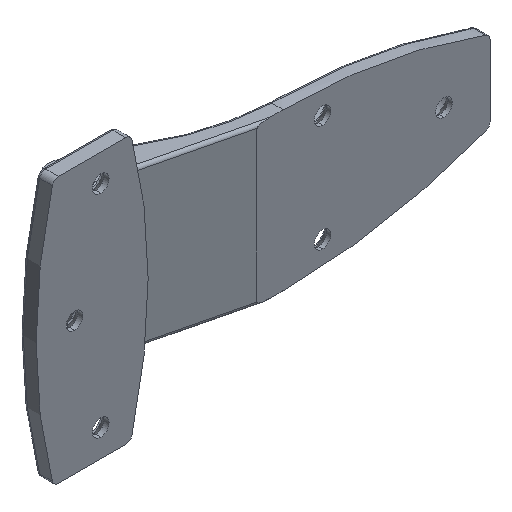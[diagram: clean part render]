
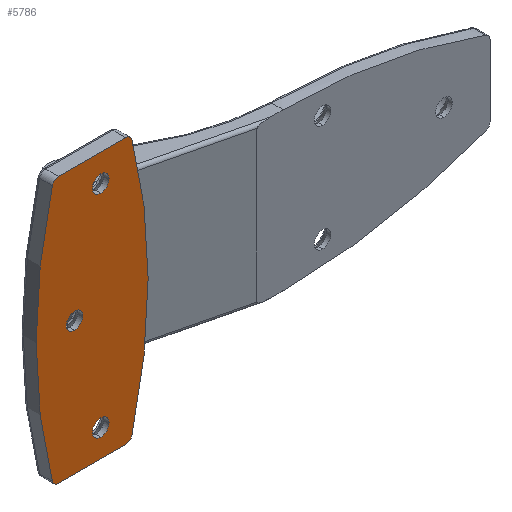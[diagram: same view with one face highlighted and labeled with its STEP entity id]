
A CAD part, isometric view. The second image highlights one B-rep face of the part: STEP entity #5786.
In plain terms, the highlighted planar face has unit normal (0, -1, 0).
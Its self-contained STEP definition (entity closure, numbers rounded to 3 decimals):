
#30 = EDGE_CURVE ( 'NONE', #4342, #4084, #4526, .T. ) ;
#81 = VERTEX_POINT ( 'NONE', #4961 ) ;
#182 = AXIS2_PLACEMENT_3D ( 'NONE', #4245, #3330, #1212 ) ;
#213 = CARTESIAN_POINT ( 'NONE',  ( -17.983, 0., 39.5 ) ) ;
#250 = CARTESIAN_POINT ( 'NONE',  ( 4.919, 0., 40. ) ) ;
#308 = CARTESIAN_POINT ( 'NONE',  ( -4.8, 0., 35.6 ) ) ;
#352 = CARTESIAN_POINT ( 'NONE',  ( -4.8, 0., -35.6 ) ) ;
#406 = CIRCLE ( 'NONE', #6312, 2.6 ) ;
#420 = CARTESIAN_POINT ( 'NONE',  ( -17.983, 0., -39.5 ) ) ;
#460 = DIRECTION ( 'NONE',  ( 0., 1., 0. ) ) ;
#500 = EDGE_LOOP ( 'NONE', ( #6244, #2288 ) ) ;
#516 = DIRECTION ( 'NONE',  ( 0., 0., 1. ) ) ;
#523 = CARTESIAN_POINT ( 'NONE',  ( -4.8, 0., -33. ) ) ;
#621 = EDGE_CURVE ( 'NONE', #5674, #681, #3442, .T. ) ;
#660 = EDGE_CURVE ( 'NONE', #6634, #3691, #5629, .T. ) ;
#681 = VERTEX_POINT ( 'NONE', #250 ) ;
#697 = CARTESIAN_POINT ( 'NONE',  ( 2.983, 0., -41.5 ) ) ;
#844 = DIRECTION ( 'NONE',  ( 0., 1., 0. ) ) ;
#947 = VECTOR ( 'NONE', #6474, 1000. ) ;
#953 = DIRECTION ( 'NONE',  ( 0., 0., 1. ) ) ;
#1007 = EDGE_CURVE ( 'NONE', #3691, #6634, #1592, .T. ) ;
#1014 = CARTESIAN_POINT ( 'NONE',  ( -4.8, 0., 33. ) ) ;
#1018 = VERTEX_POINT ( 'NONE', #2099 ) ;
#1036 = DIRECTION ( 'NONE',  ( 0., 1., 0. ) ) ;
#1107 = CARTESIAN_POINT ( 'NONE',  ( -17.983, 0., 41.5 ) ) ;
#1139 = DIRECTION ( 'NONE',  ( 0., 0., 1. ) ) ;
#1212 = DIRECTION ( 'NONE',  ( 0., 0., 1. ) ) ;
#1377 = AXIS2_PLACEMENT_3D ( 'NONE', #2642, #5212, #6774 ) ;
#1389 = AXIS2_PLACEMENT_3D ( 'NONE', #4692, #4383, #4350 ) ;
#1592 = CIRCLE ( 'NONE', #1709, 2.6 ) ;
#1614 = CARTESIAN_POINT ( 'NONE',  ( 4.919, 0., -40. ) ) ;
#1659 = DIRECTION ( 'NONE',  ( 0., 1., 0. ) ) ;
#1708 = AXIS2_PLACEMENT_3D ( 'NONE', #5257, #3213, #2160 ) ;
#1709 = AXIS2_PLACEMENT_3D ( 'NONE', #3627, #1036, #516 ) ;
#1728 = VERTEX_POINT ( 'NONE', #6340 ) ;
#1801 = CARTESIAN_POINT ( 'NONE',  ( 2.983, 0., 41.5 ) ) ;
#1932 = CIRCLE ( 'NONE', #1708, 160. ) ;
#1953 = VERTEX_POINT ( 'NONE', #697 ) ;
#2099 = CARTESIAN_POINT ( 'NONE',  ( -19.919, 0., -40. ) ) ;
#2160 = DIRECTION ( 'NONE',  ( 0., 0., 1. ) ) ;
#2161 = VERTEX_POINT ( 'NONE', #3290 ) ;
#2192 = DIRECTION ( 'NONE',  ( 0., 1., 0. ) ) ;
#2254 = ORIENTED_EDGE ( 'NONE', *, *, #5723, .F. ) ;
#2264 = DIRECTION ( 'NONE',  ( 0., 1., 0. ) ) ;
#2288 = ORIENTED_EDGE ( 'NONE', *, *, #6346, .T. ) ;
#2298 = CARTESIAN_POINT ( 'NONE',  ( -17.983, 0., -41.5 ) ) ;
#2352 = EDGE_CURVE ( 'NONE', #1018, #6212, #1932, .T. ) ;
#2407 = EDGE_LOOP ( 'NONE', ( #3268, #3030 ) ) ;
#2471 = CARTESIAN_POINT ( 'NONE',  ( -17.983, 0., -39.5 ) ) ;
#2642 = CARTESIAN_POINT ( 'NONE',  ( 2.983, 0., 39.5 ) ) ;
#2689 = LINE ( 'NONE', #1107, #6616 ) ;
#2734 = CARTESIAN_POINT ( 'NONE',  ( -13., 0., 0. ) ) ;
#2747 = EDGE_CURVE ( 'NONE', #2161, #1018, #5537, .T. ) ;
#2818 = CIRCLE ( 'NONE', #3890, 2. ) ;
#2834 = ORIENTED_EDGE ( 'NONE', *, *, #2352, .F. ) ;
#2850 = EDGE_LOOP ( 'NONE', ( #6246, #3212, #3560, #4844, #3903, #2863, #2254, #2834 ) ) ;
#2863 = ORIENTED_EDGE ( 'NONE', *, *, #5200, .F. ) ;
#2922 = AXIS2_PLACEMENT_3D ( 'NONE', #420, #6696, #2993 ) ;
#2991 = ORIENTED_EDGE ( 'NONE', *, *, #30, .T. ) ;
#2993 = DIRECTION ( 'NONE',  ( 0., 0., -1. ) ) ;
#3030 = ORIENTED_EDGE ( 'NONE', *, *, #1007, .T. ) ;
#3031 = FACE_BOUND ( 'NONE', #500, .T. ) ;
#3060 = FACE_OUTER_BOUND ( 'NONE', #2850, .T. ) ;
#3132 = DIRECTION ( 'NONE',  ( 0., 0., 1. ) ) ;
#3156 = DIRECTION ( 'NONE',  ( 0., 1., 0. ) ) ;
#3212 = ORIENTED_EDGE ( 'NONE', *, *, #5806, .F. ) ;
#3213 = DIRECTION ( 'NONE',  ( 0., 1., 0. ) ) ;
#3268 = ORIENTED_EDGE ( 'NONE', *, *, #660, .T. ) ;
#3290 = CARTESIAN_POINT ( 'NONE',  ( -17.983, 0., -41.5 ) ) ;
#3296 = EDGE_CURVE ( 'NONE', #5790, #1953, #6301, .T. ) ;
#3330 = DIRECTION ( 'NONE',  ( 0., 1., 0. ) ) ;
#3442 = CIRCLE ( 'NONE', #1377, 2. ) ;
#3560 = ORIENTED_EDGE ( 'NONE', *, *, #3296, .F. ) ;
#3562 = AXIS2_PLACEMENT_3D ( 'NONE', #2471, #4552, #6231 ) ;
#3627 = CARTESIAN_POINT ( 'NONE',  ( -4.8, 0., -33. ) ) ;
#3691 = VERTEX_POINT ( 'NONE', #3857 ) ;
#3705 = CARTESIAN_POINT ( 'NONE',  ( -4.8, 0., 33. ) ) ;
#3709 = FACE_BOUND ( 'NONE', #5606, .T. ) ;
#3786 = CARTESIAN_POINT ( 'NONE',  ( -13., 0., 2.6 ) ) ;
#3787 = CIRCLE ( 'NONE', #182, 160. ) ;
#3857 = CARTESIAN_POINT ( 'NONE',  ( -4.8, 0., -30.4 ) ) ;
#3890 = AXIS2_PLACEMENT_3D ( 'NONE', #213, #844, #3981 ) ;
#3903 = ORIENTED_EDGE ( 'NONE', *, *, #621, .F. ) ;
#3981 = DIRECTION ( 'NONE',  ( 0., 0., 1. ) ) ;
#3995 = CARTESIAN_POINT ( 'NONE',  ( -19.919, 0., 40. ) ) ;
#4084 = VERTEX_POINT ( 'NONE', #3786 ) ;
#4181 = CIRCLE ( 'NONE', #4298, 2.6 ) ;
#4213 = ORIENTED_EDGE ( 'NONE', *, *, #5438, .T. ) ;
#4245 = CARTESIAN_POINT ( 'NONE',  ( -150., 0., 0. ) ) ;
#4255 = DIRECTION ( 'NONE',  ( 1., 0., 0. ) ) ;
#4295 = DIRECTION ( 'NONE',  ( 0., 0., 1. ) ) ;
#4298 = AXIS2_PLACEMENT_3D ( 'NONE', #3705, #2264, #4295 ) ;
#4342 = VERTEX_POINT ( 'NONE', #6251 ) ;
#4350 = DIRECTION ( 'NONE',  ( 0., 0., -1. ) ) ;
#4383 = DIRECTION ( 'NONE',  ( 0., 1., 0. ) ) ;
#4447 = LINE ( 'NONE', #2298, #947 ) ;
#4526 = CIRCLE ( 'NONE', #6730, 2.6 ) ;
#4552 = DIRECTION ( 'NONE',  ( 0., 1., 0. ) ) ;
#4692 = CARTESIAN_POINT ( 'NONE',  ( 2.983, 0., -39.5 ) ) ;
#4844 = ORIENTED_EDGE ( 'NONE', *, *, #5605, .F. ) ;
#4961 = CARTESIAN_POINT ( 'NONE',  ( -4.8, 0., 30.4 ) ) ;
#4963 = AXIS2_PLACEMENT_3D ( 'NONE', #1014, #460, #3132 ) ;
#4968 = EDGE_CURVE ( 'NONE', #81, #5966, #4181, .T. ) ;
#5106 = PLANE ( 'NONE',  #2922 ) ;
#5200 = EDGE_CURVE ( 'NONE', #1728, #5674, #2689, .T. ) ;
#5212 = DIRECTION ( 'NONE',  ( 0., 1., 0. ) ) ;
#5257 = CARTESIAN_POINT ( 'NONE',  ( 135., 0., 0. ) ) ;
#5438 = EDGE_CURVE ( 'NONE', #4084, #4342, #406, .T. ) ;
#5537 = CIRCLE ( 'NONE', #3562, 2. ) ;
#5605 = EDGE_CURVE ( 'NONE', #681, #5790, #3787, .T. ) ;
#5606 = EDGE_LOOP ( 'NONE', ( #2991, #4213 ) ) ;
#5629 = CIRCLE ( 'NONE', #6512, 2.6 ) ;
#5674 = VERTEX_POINT ( 'NONE', #1801 ) ;
#5723 = EDGE_CURVE ( 'NONE', #6212, #1728, #2818, .T. ) ;
#5786 = ADVANCED_FACE ( 'NONE', ( #3031, #3060, #6667, #3709 ), #5106, .T. ) ;
#5790 = VERTEX_POINT ( 'NONE', #1614 ) ;
#5806 = EDGE_CURVE ( 'NONE', #1953, #2161, #4447, .T. ) ;
#5858 = DIRECTION ( 'NONE',  ( 0., 0., 1. ) ) ;
#5964 = CIRCLE ( 'NONE', #4963, 2.6 ) ;
#5966 = VERTEX_POINT ( 'NONE', #308 ) ;
#6212 = VERTEX_POINT ( 'NONE', #3995 ) ;
#6231 = DIRECTION ( 'NONE',  ( 0., 0., -1. ) ) ;
#6244 = ORIENTED_EDGE ( 'NONE', *, *, #4968, .T. ) ;
#6246 = ORIENTED_EDGE ( 'NONE', *, *, #2747, .F. ) ;
#6251 = CARTESIAN_POINT ( 'NONE',  ( -13., 0., -2.6 ) ) ;
#6301 = CIRCLE ( 'NONE', #1389, 2. ) ;
#6312 = AXIS2_PLACEMENT_3D ( 'NONE', #6706, #3156, #953 ) ;
#6340 = CARTESIAN_POINT ( 'NONE',  ( -17.983, 0., 41.5 ) ) ;
#6346 = EDGE_CURVE ( 'NONE', #5966, #81, #5964, .T. ) ;
#6474 = DIRECTION ( 'NONE',  ( -1., 0., 0. ) ) ;
#6512 = AXIS2_PLACEMENT_3D ( 'NONE', #523, #1659, #1139 ) ;
#6616 = VECTOR ( 'NONE', #4255, 1000. ) ;
#6634 = VERTEX_POINT ( 'NONE', #352 ) ;
#6667 = FACE_BOUND ( 'NONE', #2407, .T. ) ;
#6696 = DIRECTION ( 'NONE',  ( 0., -1., 0. ) ) ;
#6706 = CARTESIAN_POINT ( 'NONE',  ( -13., 0., 0. ) ) ;
#6730 = AXIS2_PLACEMENT_3D ( 'NONE', #2734, #2192, #5858 ) ;
#6774 = DIRECTION ( 'NONE',  ( 0., 0., -1. ) ) ;
